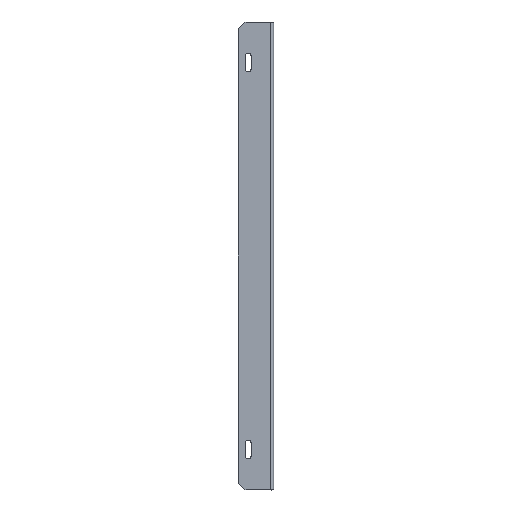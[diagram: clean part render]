
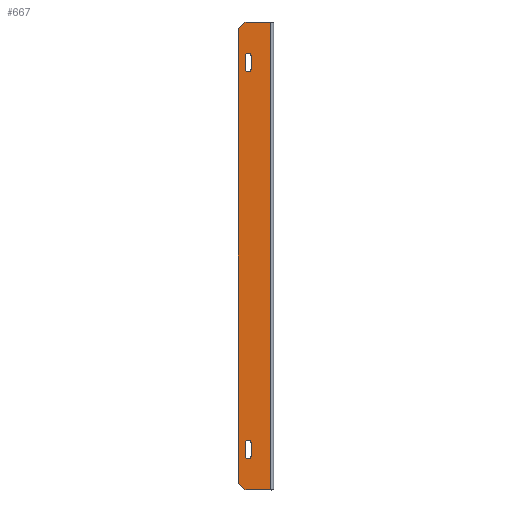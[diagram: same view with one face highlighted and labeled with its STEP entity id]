
A CAD part, left-side view. The second image highlights one B-rep face of the part: STEP entity #667.
In plain terms, the highlighted planar face has unit normal (-1, 0, 0).
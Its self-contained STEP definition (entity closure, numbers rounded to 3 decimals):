
#20 = DIRECTION ( 'NONE',  ( 1., 0., 0. ) ) ;
#25 = CARTESIAN_POINT ( 'NONE',  ( 0., 41.5, 275. ) ) ;
#27 = PLANE ( 'NONE',  #2209 ) ;
#29 = DIRECTION ( 'NONE',  ( 0., 1., 0. ) ) ;
#115 = CARTESIAN_POINT ( 'NONE',  ( 0., 41.5, 275. ) ) ;
#116 = DIRECTION ( 'NONE',  ( 0., 0., -1. ) ) ;
#120 = CARTESIAN_POINT ( 'NONE',  ( 0., 33.5, 235. ) ) ;
#121 = DIRECTION ( 'NONE',  ( 0., 0., 1. ) ) ;
#122 = DIRECTION ( 'NONE',  ( 0., 0., -1. ) ) ;
#123 = CARTESIAN_POINT ( 'NONE',  ( 0., 26.5, 235. ) ) ;
#124 = CARTESIAN_POINT ( 'NONE',  ( 0., 30., 235. ) ) ;
#125 = DIRECTION ( 'NONE',  ( -1., 0., 0. ) ) ;
#126 = DIRECTION ( 'NONE',  ( 0., 1., 0. ) ) ;
#127 = DIRECTION ( 'NONE',  ( 0., 0., 1. ) ) ;
#128 = CARTESIAN_POINT ( 'NONE',  ( 0., 26.5, -235. ) ) ;
#129 = CARTESIAN_POINT ( 'NONE',  ( 0., 30., 220. ) ) ;
#130 = DIRECTION ( 'NONE',  ( -1., 0., 0. ) ) ;
#131 = DIRECTION ( 'NONE',  ( 0., -1., 0. ) ) ;
#132 = DIRECTION ( 'NONE',  ( 0., 0., -1. ) ) ;
#133 = CARTESIAN_POINT ( 'NONE',  ( 0., 33.5, -235. ) ) ;
#134 = CARTESIAN_POINT ( 'NONE',  ( 0., 30., -235. ) ) ;
#135 = DIRECTION ( 'NONE',  ( -1., 0., 0. ) ) ;
#136 = DIRECTION ( 'NONE',  ( 0., -1., 0. ) ) ;
#137 = DIRECTION ( 'NONE',  ( 0., 0.707, -0.707 ) ) ;
#139 = CARTESIAN_POINT ( 'NONE',  ( 0., 41.5, 267.2 ) ) ;
#140 = CARTESIAN_POINT ( 'NONE',  ( 0., 30., -220. ) ) ;
#141 = DIRECTION ( 'NONE',  ( -1., 0., 0. ) ) ;
#142 = DIRECTION ( 'NONE',  ( 0., 1., 0. ) ) ;
#143 = CARTESIAN_POINT ( 'NONE',  ( 0., 33.7, -275. ) ) ;
#144 = DIRECTION ( 'NONE',  ( 0., -0.707, -0.707 ) ) ;
#145 = CARTESIAN_POINT ( 'NONE',  ( 0., 41.5, -275. ) ) ;
#146 = DIRECTION ( 'NONE',  ( 0., -1., 0. ) ) ;
#147 = CARTESIAN_POINT ( 'NONE',  ( 0., 3.5, 275. ) ) ;
#148 = DIRECTION ( 'NONE',  ( 0., 0., -1. ) ) ;
#384 = CARTESIAN_POINT ( 'NONE',  ( 0., 3.5, 275. ) ) ;
#394 = CARTESIAN_POINT ( 'NONE',  ( 0., 33.7, 275. ) ) ;
#395 = CARTESIAN_POINT ( 'NONE',  ( 0., 3.5, -275. ) ) ;
#398 = CARTESIAN_POINT ( 'NONE',  ( 0., 41.5, 267.2 ) ) ;
#402 = CARTESIAN_POINT ( 'NONE',  ( 0., 33.5, 220. ) ) ;
#406 = CARTESIAN_POINT ( 'NONE',  ( 0., 41.5, -267.2 ) ) ;
#407 = CARTESIAN_POINT ( 'NONE',  ( 0., 33.5, -235. ) ) ;
#408 = CARTESIAN_POINT ( 'NONE',  ( 0., 26.5, -235. ) ) ;
#409 = CARTESIAN_POINT ( 'NONE',  ( 0., 26.5, 235. ) ) ;
#410 = CARTESIAN_POINT ( 'NONE',  ( 0., 33.5, 235. ) ) ;
#411 = CARTESIAN_POINT ( 'NONE',  ( 0., 26.5, 220. ) ) ;
#412 = CARTESIAN_POINT ( 'NONE',  ( 0., 26.5, -220. ) ) ;
#413 = CARTESIAN_POINT ( 'NONE',  ( 0., 33.5, -220. ) ) ;
#414 = CARTESIAN_POINT ( 'NONE',  ( 0., 33.7, -275. ) ) ;
#608 = EDGE_CURVE ( 'NONE', #1263, #1253, #1621, .T. ) ;
#667 = ADVANCED_FACE ( 'NONE', ( #1731, #1734, #1728 ), #27, .F. ) ;
#695 = EDGE_CURVE ( 'NONE', #1267, #1275, #1773, .T. ) ;
#698 = EDGE_CURVE ( 'NONE', #1279, #1271, #1779, .T. ) ;
#699 = EDGE_CURVE ( 'NONE', #1278, #1279, #1775, .T. ) ;
#700 = EDGE_CURVE ( 'NONE', #1280, #1278, #1781, .T. ) ;
#701 = EDGE_CURVE ( 'NONE', #1271, #1280, #1783, .T. ) ;
#702 = EDGE_CURVE ( 'NONE', #1277, #1281, #1784, .T. ) ;
#703 = EDGE_CURVE ( 'NONE', #1276, #1277, #1786, .T. ) ;
#704 = EDGE_CURVE ( 'NONE', #1282, #1276, #1787, .T. ) ;
#705 = EDGE_CURVE ( 'NONE', #1281, #1282, #1789, .T. ) ;
#706 = EDGE_CURVE ( 'NONE', #1263, #1267, #1790, .T. ) ;
#707 = EDGE_CURVE ( 'NONE', #1275, #1283, #1793, .T. ) ;
#708 = EDGE_CURVE ( 'NONE', #1283, #1264, #1795, .T. ) ;
#709 = EDGE_CURVE ( 'NONE', #1253, #1264, #1797, .T. ) ;
#1024 = ORIENTED_EDGE ( 'NONE', *, *, #698, .F. ) ;
#1025 = ORIENTED_EDGE ( 'NONE', *, *, #699, .F. ) ;
#1026 = ORIENTED_EDGE ( 'NONE', *, *, #700, .F. ) ;
#1027 = ORIENTED_EDGE ( 'NONE', *, *, #701, .F. ) ;
#1028 = ORIENTED_EDGE ( 'NONE', *, *, #702, .F. ) ;
#1029 = ORIENTED_EDGE ( 'NONE', *, *, #703, .F. ) ;
#1030 = ORIENTED_EDGE ( 'NONE', *, *, #704, .F. ) ;
#1031 = ORIENTED_EDGE ( 'NONE', *, *, #705, .F. ) ;
#1032 = ORIENTED_EDGE ( 'NONE', *, *, #608, .F. ) ;
#1033 = ORIENTED_EDGE ( 'NONE', *, *, #706, .T. ) ;
#1034 = ORIENTED_EDGE ( 'NONE', *, *, #695, .T. ) ;
#1035 = ORIENTED_EDGE ( 'NONE', *, *, #707, .T. ) ;
#1036 = ORIENTED_EDGE ( 'NONE', *, *, #708, .T. ) ;
#1037 = ORIENTED_EDGE ( 'NONE', *, *, #709, .F. ) ;
#1253 = VERTEX_POINT ( 'NONE', #384 ) ;
#1263 = VERTEX_POINT ( 'NONE', #394 ) ;
#1264 = VERTEX_POINT ( 'NONE', #395 ) ;
#1267 = VERTEX_POINT ( 'NONE', #398 ) ;
#1271 = VERTEX_POINT ( 'NONE', #402 ) ;
#1275 = VERTEX_POINT ( 'NONE', #406 ) ;
#1276 = VERTEX_POINT ( 'NONE', #407 ) ;
#1277 = VERTEX_POINT ( 'NONE', #408 ) ;
#1278 = VERTEX_POINT ( 'NONE', #409 ) ;
#1279 = VERTEX_POINT ( 'NONE', #410 ) ;
#1280 = VERTEX_POINT ( 'NONE', #411 ) ;
#1281 = VERTEX_POINT ( 'NONE', #412 ) ;
#1282 = VERTEX_POINT ( 'NONE', #413 ) ;
#1283 = VERTEX_POINT ( 'NONE', #414 ) ;
#1389 = EDGE_LOOP ( 'NONE', ( #1028, #1029, #1030, #1031 ) ) ;
#1391 = EDGE_LOOP ( 'NONE', ( #1024, #1025, #1026, #1027 ) ) ;
#1393 = EDGE_LOOP ( 'NONE', ( #1032, #1033, #1034, #1035, #1036, #1037 ) ) ;
#1621 = LINE ( 'NONE', #1978, #1624 ) ;
#1624 = VECTOR ( 'NONE', #1979, 1000. ) ;
#1728 = FACE_OUTER_BOUND ( 'NONE', #1393, .T. ) ;
#1731 = FACE_BOUND ( 'NONE', #1391, .T. ) ;
#1734 = FACE_BOUND ( 'NONE', #1389, .T. ) ;
#1773 = LINE ( 'NONE', #115, #1776 ) ;
#1775 = CIRCLE ( 'NONE', #2229, 3.5 ) ;
#1776 = VECTOR ( 'NONE', #116, 1000. ) ;
#1779 = LINE ( 'NONE', #120, #1782 ) ;
#1781 = LINE ( 'NONE', #123, #1785 ) ;
#1782 = VECTOR ( 'NONE', #122, 1000. ) ;
#1783 = CIRCLE ( 'NONE', #2230, 3.5 ) ;
#1784 = LINE ( 'NONE', #128, #1788 ) ;
#1785 = VECTOR ( 'NONE', #121, 1000. ) ;
#1786 = CIRCLE ( 'NONE', #2231, 3.5 ) ;
#1787 = LINE ( 'NONE', #133, #1791 ) ;
#1788 = VECTOR ( 'NONE', #127, 1000. ) ;
#1789 = CIRCLE ( 'NONE', #2232, 3.5 ) ;
#1790 = LINE ( 'NONE', #139, #1794 ) ;
#1791 = VECTOR ( 'NONE', #132, 1000. ) ;
#1793 = LINE ( 'NONE', #143, #1796 ) ;
#1794 = VECTOR ( 'NONE', #137, 1000. ) ;
#1795 = LINE ( 'NONE', #145, #1798 ) ;
#1796 = VECTOR ( 'NONE', #144, 1000. ) ;
#1797 = LINE ( 'NONE', #147, #1800 ) ;
#1798 = VECTOR ( 'NONE', #146, 1000. ) ;
#1800 = VECTOR ( 'NONE', #148, 1000. ) ;
#1978 = CARTESIAN_POINT ( 'NONE',  ( 0., 41.5, 275. ) ) ;
#1979 = DIRECTION ( 'NONE',  ( 0., -1., 0. ) ) ;
#2209 = AXIS2_PLACEMENT_3D ( 'NONE', #25, #20, #29 ) ;
#2229 = AXIS2_PLACEMENT_3D ( 'NONE', #124, #125, #126 ) ;
#2230 = AXIS2_PLACEMENT_3D ( 'NONE', #129, #130, #131 ) ;
#2231 = AXIS2_PLACEMENT_3D ( 'NONE', #134, #135, #136 ) ;
#2232 = AXIS2_PLACEMENT_3D ( 'NONE', #140, #141, #142 ) ;
